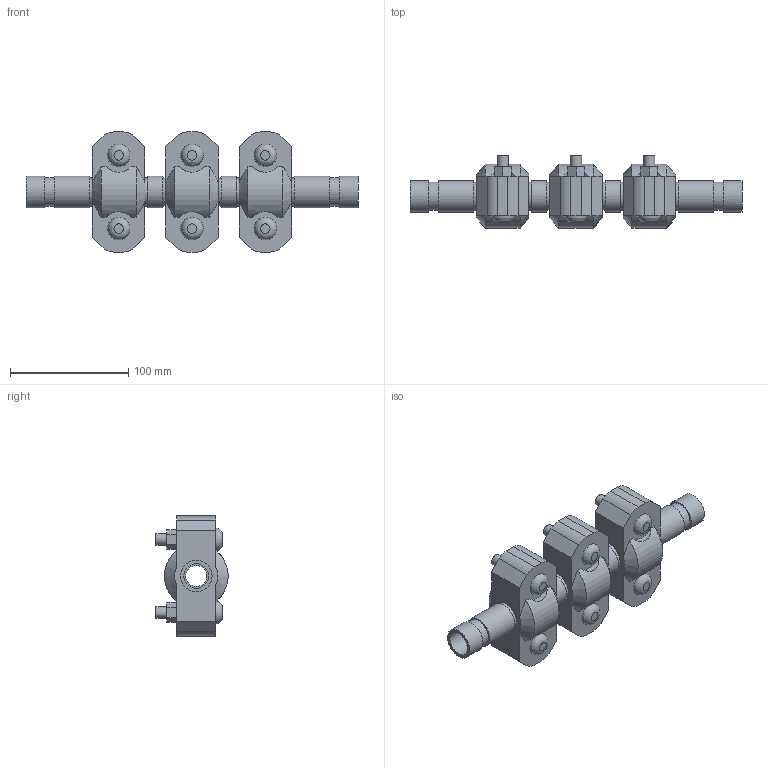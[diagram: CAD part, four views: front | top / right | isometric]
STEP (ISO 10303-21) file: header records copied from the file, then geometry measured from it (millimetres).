
FILE_DESCRIPTION(/* description */ ('VIC EXPANSION JOINT 3 COUPLINGS EXPANDED STYLE 155 (OGS)','CAx-IF Rec.Pracs.---Representation and Presentation of Product Manufacturing Information (PMI)---4.0---2014-10-13'),/* implementation_level */ '2;1');
FILE_NAME(/* name */ 'C:\Users\kkamble\AppData\Roaming\Autodesk\ApplicationPlugins\Victaulic.Temp\A258\Victaulic_IPS_Expansion Joint_Expanded_3 Couplings_Style 155 (OGS)_0.75 (20).stp',/* time_stamp */ '2021-06-26T23:57:52+02:00',/* author */ ('kkamble'),/* organization */ ('Victaulic'),/* preprocessor_version */ 'ST-DEVELOPER v17.2',/* originating_system */ 'Autodesk Inventor 2019',/* authorisation */ '');
FILE_SCHEMA (('AP242_MANAGED_MODEL_BASED_3D_ENGINEERING_MIM_LF { 1 0 10303 442 1 1 4 }'));
Length unit declared in the file: inch
Products named in the file (4): 155-0.75; Nipple-0.75; Nipple-0.75_1; 077-0.75
Assembly tree (7 placements, depth 2):
  155-0.75
    Nipple-0.75  x2
    Nipple-0.75_1  x2
    077-0.75  x3
Bounding box: 280.67 x 61.1 x 101.6 mm (x, y, z)
Volume: 475970.9 mm3; surface area: 127372.8 mm2
Topology: 7 solids, 13 shells, 231 faces, 555 edges, 390 vertices
Faces by surface type: plane 132, cylinder 81, cone 12, bspline 6
Full cylindrical faces by diameter (mm): 9.525 x12, 11.43 x6, 17.78 x3, 20.93 x4, 23.825 x8, 26.67 x18
Entity records: 2969 total; most frequent: CARTESIAN_POINT 583, DIRECTION 477, ORIENTED_EDGE 410, EDGE_CURVE 205, AXIS2_PLACEMENT_3D 190, VERTEX_POINT 146, EDGE_LOOP 111, LINE 97
